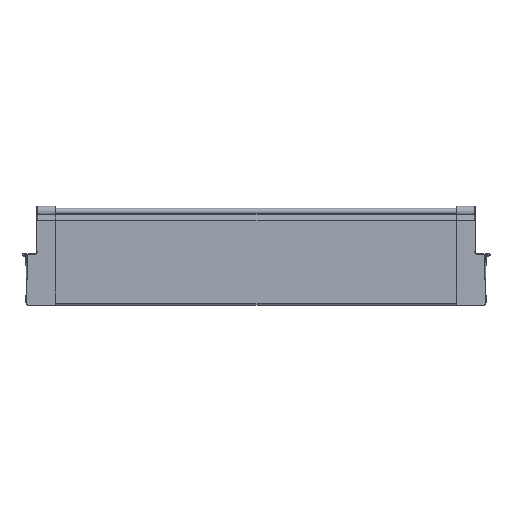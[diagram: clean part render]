
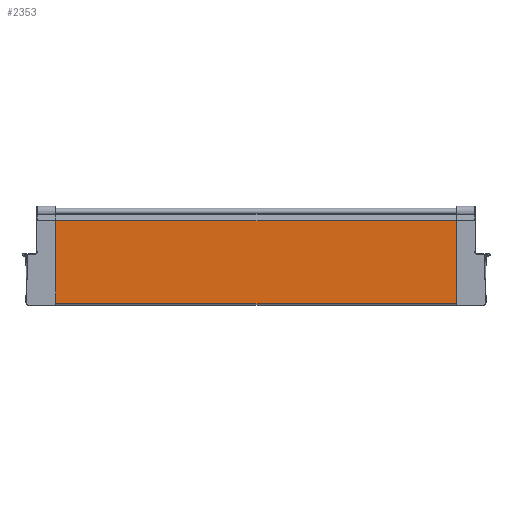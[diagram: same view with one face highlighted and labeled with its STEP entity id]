
A CAD part, top view. The second image highlights one B-rep face of the part: STEP entity #2353.
In plain terms, the highlighted planar face has unit normal (0, 0, 1).
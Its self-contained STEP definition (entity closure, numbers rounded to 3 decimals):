
#60 = VERTEX_POINT ( 'NONE', #2586 ) ;
#125 = EDGE_CURVE ( 'NONE', #60, #126, #2658, .T. ) ;
#126 = VERTEX_POINT ( 'NONE', #2653 ) ;
#2335 = EDGE_CURVE ( 'NONE', #126, #2359, #10582, .T. ) ;
#2350 = VERTEX_POINT ( 'NONE', #10611 ) ;
#2352 = EDGE_CURVE ( 'NONE', #60, #2350, #10610, .T. ) ;
#2353 = ADVANCED_FACE ( 'NONE', ( #10669 ), #10668, .F. ) ;
#2354 = EDGE_LOOP ( 'NONE', ( #2355, #2356, #2357, #2360 ) ) ;
#2355 = ORIENTED_EDGE ( 'NONE', *, *, #125, .F. ) ;
#2356 = ORIENTED_EDGE ( 'NONE', *, *, #2352, .T. ) ;
#2357 = ORIENTED_EDGE ( 'NONE', *, *, #2358, .T. ) ;
#2358 = EDGE_CURVE ( 'NONE', #2350, #2359, #10666, .T. ) ;
#2359 = VERTEX_POINT ( 'NONE', #10659 ) ;
#2360 = ORIENTED_EDGE ( 'NONE', *, *, #2335, .F. ) ;
#2586 = CARTESIAN_POINT ( 'NONE',  ( -38.8, 45.248, 4.05 ) ) ;
#2653 = CARTESIAN_POINT ( 'NONE',  ( -38.8, -64.725, 4.05 ) ) ;
#2655 = DIRECTION ( 'NONE',  ( 0., -1., 0. ) ) ;
#2656 = VECTOR ( 'NONE', #2655, 1000. ) ;
#2657 = CARTESIAN_POINT ( 'NONE',  ( -38.8, 45.248, 4.05 ) ) ;
#2658 = LINE ( 'NONE', #2657, #2656 ) ;
#10113 = VECTOR ( 'NONE', #10114, 1000. ) ;
#10114 = DIRECTION ( 'NONE',  ( -1., 0., 0. ) ) ;
#10579 = DIRECTION ( 'NONE',  ( -1., 0., 0. ) ) ;
#10580 = VECTOR ( 'NONE', #10579, 1000. ) ;
#10581 = CARTESIAN_POINT ( 'NONE',  ( 89.157, -64.725, 4.05 ) ) ;
#10582 = LINE ( 'NONE', #10581, #10580 ) ;
#10609 = CARTESIAN_POINT ( 'NONE',  ( 89.157, 45.248, 4.05 ) ) ;
#10610 = LINE ( 'NONE', #10609, #10113 ) ;
#10611 = CARTESIAN_POINT ( 'NONE',  ( -568.3, 45.248, 4.05 ) ) ;
#10659 = CARTESIAN_POINT ( 'NONE',  ( -568.3, -64.725, 4.05 ) ) ;
#10660 = DIRECTION ( 'NONE',  ( 0., -1., 0. ) ) ;
#10661 = VECTOR ( 'NONE', #10660, 1000. ) ;
#10662 = CARTESIAN_POINT ( 'NONE',  ( -568.3, 45.248, 4.05 ) ) ;
#10663 = DIRECTION ( 'NONE',  ( 0., 1., 0. ) ) ;
#10664 = DIRECTION ( 'NONE',  ( 0., 0., -1. ) ) ;
#10665 = CARTESIAN_POINT ( 'NONE',  ( 89.157, 45.248, 4.05 ) ) ;
#10666 = LINE ( 'NONE', #10662, #10661 ) ;
#10667 = AXIS2_PLACEMENT_3D ( 'NONE', #10665, #10664, #10663 ) ;
#10668 = PLANE ( 'NONE',  #10667 ) ;
#10669 = FACE_OUTER_BOUND ( 'NONE', #2354, .T. ) ;
